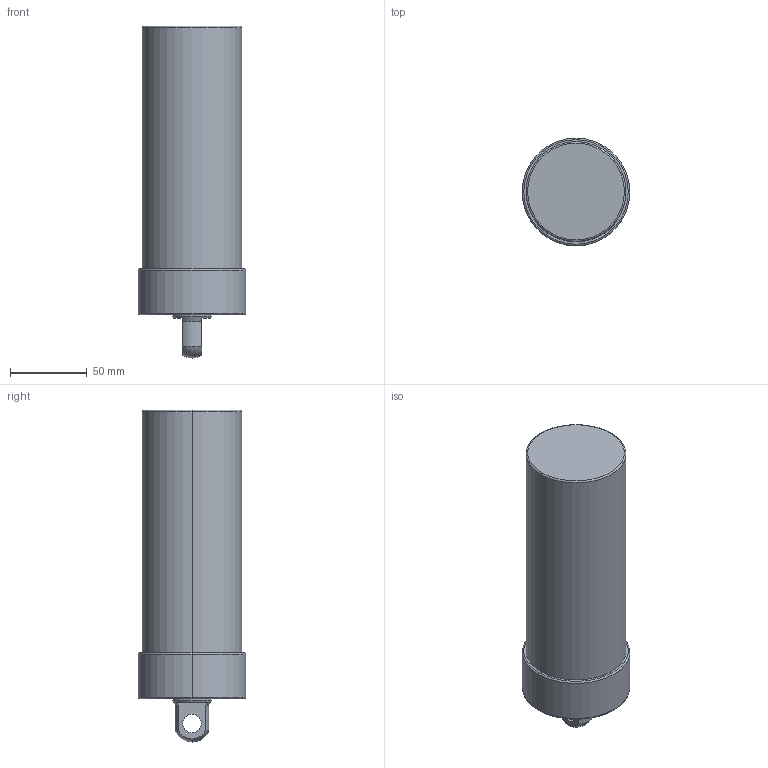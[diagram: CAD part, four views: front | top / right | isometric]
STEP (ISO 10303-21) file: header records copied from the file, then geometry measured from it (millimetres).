
FILE_DESCRIPTION (( 'STEP AP203' ), '1' );
FILE_NAME ('CLLU-065GP-125.STEP', '2020-01-08T00:37:06', ( '' ), ( '' ), 'SwSTEP 2.0', 'SolidWorks 2015', '' );
FILE_SCHEMA (( 'CONFIG_CONTROL_DESIGN' ));
Length unit declared in the file: millimetre
Products named in the file (1): CLLU-065GP-125
Bounding box: 70 x 70 x 216 mm (x, y, z)
Volume: 643831.4 mm3; surface area: 49220.1 mm2
Topology: 1 solids, 1 shells, 57 faces, 130 edges, 75 vertices
Faces by surface type: cylinder 22, cone 18, plane 9, torus 6, sphere 2
Entity records: 1643 total; most frequent: DIRECTION 308, CARTESIAN_POINT 267, ORIENTED_EDGE 244, AXIS2_PLACEMENT_3D 132, EDGE_CURVE 122, VERTEX_POINT 75, CIRCLE 74, EDGE_LOOP 67
